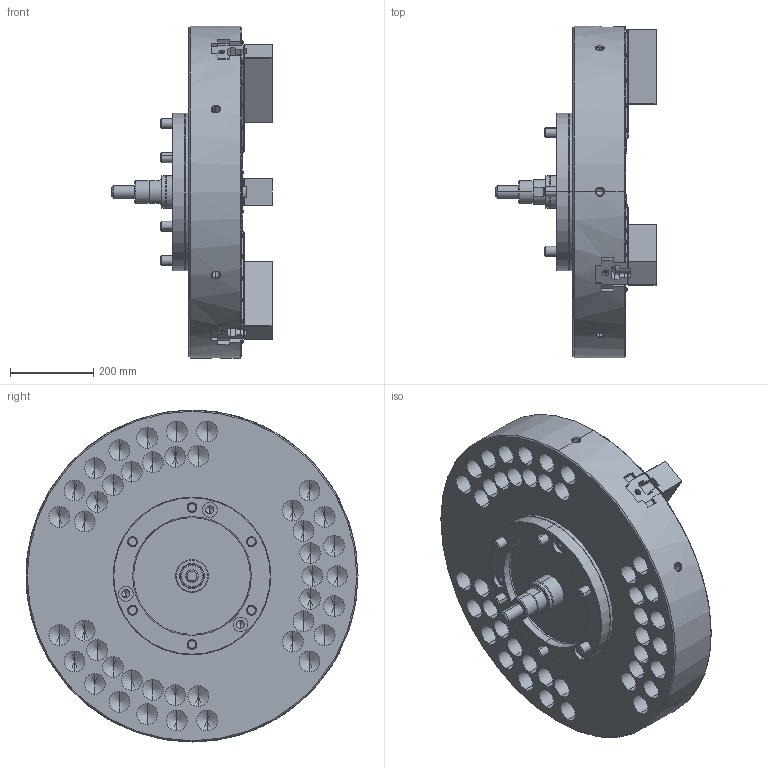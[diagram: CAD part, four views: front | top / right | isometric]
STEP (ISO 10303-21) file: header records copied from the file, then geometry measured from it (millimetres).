
FILE_DESCRIPTION (( 'STEP AP214' ), '1' );
FILE_NAME ('NV32C15_OC.STEP', '2019-12-19T07:39:48', ( '' ), ( '' ), 'SwSTEP 2.0', 'SolidWorks 2017', '' );
FILE_SCHEMA (( 'AUTOMOTIVE_DESIGN' ));
Length unit declared in the file: millimetre
Products named in the file (5): 結合; 0030120060; 61P418538_俿僫僢僩; P32262_ソフトジョー; NV32C15_OC
Assembly tree (16 placements, depth 2):
  NV32C15_OC
    P32262_ソフトジョー  x3
    61P418538_俿僫僢僩  x6
    0030120060  x6
    結合
Bounding box: 387 x 800 x 800 mm (x, y, z)
Volume: 63507177.5 mm3; surface area: 2354163.7 mm2
Topology: 16 solids, 16 shells, 5974 faces, 16573 edges, 10627 vertices
Faces by surface type: plane 4876, cylinder 515, cone 469, torus 108, sphere 6
Entity records: 156108 total; most frequent: CARTESIAN_POINT 30517, ORIENTED_EDGE 26946, DIRECTION 24488, EDGE_CURVE 13473, VECTOR 11506, LINE 11506, VERTEX_POINT 8738, AXIS2_PLACEMENT_3D 6491
